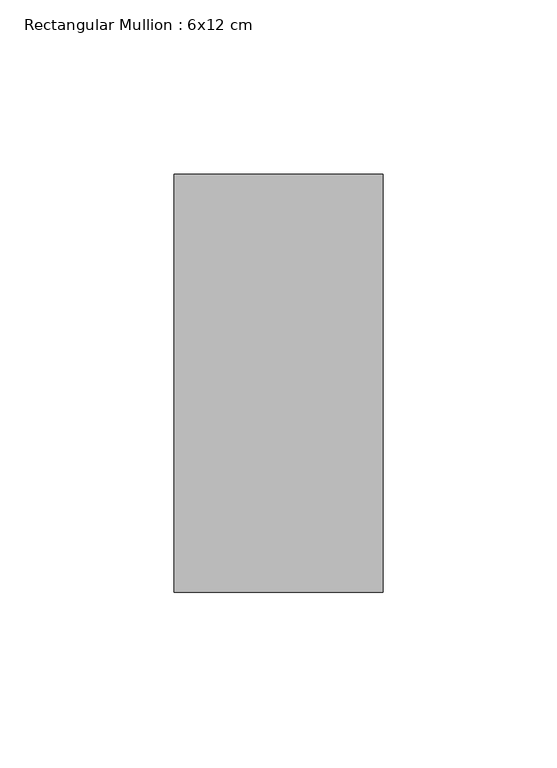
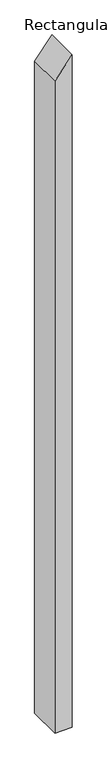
"""IFC4 building model written with IfcOpenShell, lengths in millimetres: member geometry, Rectangular Mullion : 6x12 cm."""

import ifcopenshell
import ifcopenshell.guid

model = None  # the IFC model being written
_history = None  # IfcOwnerHistory: only IFC2X3 demands one
_inside = {}  # id of a spatial element -> (the spatial element, [elements in it])
_under = {}  # id of a project, library or spatial element -> (it, [spatial elements below it])
_declared = {}  # id of a project -> (the project, [libraries it declares])
_typed = {}  # id of a type object -> (the type object, [elements of that type])
_made_of = {}  # id of a material, layer set ... -> (it, [elements and type objects made of it])


def new_model(schema):
    """Start an empty IFC model of exactly this schema.

    Asked for "IFC4X3", IfcOpenShell would pick the latest addendum, in which some entities
    have other attributes; the version numbers below select the first issue.
    IFC2X3 requires an IfcOwnerHistory on every rooted entity: one is made here for all.
    """
    global model, _history
    if schema == "IFC4X3":
        model = ifcopenshell.file(schema_version=(4, 3, 0, 0))
    else:
        model = ifcopenshell.file(schema=schema)
    _inside.clear()
    _under.clear()
    _declared.clear()
    _typed.clear()
    _made_of.clear()
    _history = None
    if model.schema == "IFC2X3":
        org = make("IfcOrganization", Name="unknown")
        user = make(
            "IfcPersonAndOrganization",
            ThePerson=make("IfcPerson", FamilyName="unknown"),
            TheOrganization=org,
        )
        app = make(
            "IfcApplication",
            ApplicationDeveloper=org,
            Version="unknown",
            ApplicationFullName="unknown",
            ApplicationIdentifier="unknown",
        )
        _history = make(
            "IfcOwnerHistory",
            OwningUser=user,
            OwningApplication=app,
            ChangeAction="ADDED",
            CreationDate=0,
        )
    return model


def make(cls, **values):
    """One entity of the class cls with the attributes given. An attribute that is None is left unset."""
    return model.create_entity(
        cls, **{name: value for name, value in values.items() if value is not None}
    )


def rooted(cls, **values):
    """An entity with a GlobalId (a new one), such as an element, a storey or a relation."""
    return make(cls, GlobalId=ifcopenshell.guid.new(), OwnerHistory=_history, **values)


def si_unit(unit_type, name, prefix=None):
    """IfcSIUnit, for example si_unit("LENGTHUNIT", "METRE", prefix="MILLI")."""
    return make("IfcSIUnit", UnitType=unit_type, Prefix=prefix, Name=name)


def assignment(units):
    """IfcUnitAssignment: the units of a project."""
    return None if units is None else make("IfcUnitAssignment", Units=units)


def point(xyz):
    """IfcCartesianPoint."""
    return None if xyz is None else make("IfcCartesianPoint", Coordinates=xyz)


def direction(xyz):
    """IfcDirection."""
    return None if xyz is None else make("IfcDirection", DirectionRatios=xyz)


def frame(location, z_axis=None, x_axis=None):
    """IfcAxis2Placement3D, a coordinate frame: its origin and axes. An axis left out is left unset."""
    return make(
        "IfcAxis2Placement3D",
        Location=point(location),
        Axis=direction(z_axis),
        RefDirection=direction(x_axis),
    )


def origin():
    """The frame at (0, 0, 0) with its axes left unset."""
    return frame((0.0, 0.0, 0.0))


def place(relative_to, where):
    """IfcLocalPlacement: puts the frame where relative to a parent placement (None: the world)."""
    return make(
        "IfcLocalPlacement", PlacementRelTo=relative_to, RelativePlacement=where
    )


def context(
    kind, dimensions, precision=None, world=None, true_north=None, identifier=None
):
    """IfcGeometricRepresentationContext, for example the 3D "Model" context."""
    return make(
        "IfcGeometricRepresentationContext",
        ContextIdentifier=identifier,
        ContextType=kind,
        CoordinateSpaceDimension=dimensions,
        Precision=precision,
        WorldCoordinateSystem=world,
        TrueNorth=true_north,
    )


def project(units=None, contexts=None):
    """IfcProject with its units and contexts."""
    return rooted(
        "IfcProject",
        Name="project",
        RepresentationContexts=contexts,
        UnitsInContext=assignment(units),
    )


def spatial(cls, under=None, at=None, **own):
    """A site, building, storey or space (cls), placed at a placement, below another one or the project."""
    s = rooted(cls, ObjectPlacement=at, **own)
    if under is not None:
        _under.setdefault(under.id(), (under, []))[1].append(s)
    return s


def polyline(points):
    """IfcPolyline through the points."""
    return make("IfcPolyline", Points=[point(p) for p in points])


def outline(outer, holes=None, kind="AREA"):
    """IfcArbitraryClosedProfileDef: a profile drawn as a closed curve; with holes, ...WithVoids."""
    if holes is None:
        return make("IfcArbitraryClosedProfileDef", ProfileType=kind, OuterCurve=outer)
    return make(
        "IfcArbitraryProfileDefWithVoids",
        ProfileType=kind,
        OuterCurve=outer,
        InnerCurves=holes,
    )


def extrude(swept, where, along, depth):
    """IfcExtrudedAreaSolid: the profile swept, set in the frame where, extruded along a direction by depth."""
    return make(
        "IfcExtrudedAreaSolid",
        SweptArea=swept,
        Position=where,
        ExtrudedDirection=direction(along),
        Depth=depth,
    )


def shape(context_of_items, identifier, shape_type, items):
    """IfcShapeRepresentation: the items that make up one representation, for example the "Body"."""
    return make(
        "IfcShapeRepresentation",
        ContextOfItems=context_of_items,
        RepresentationIdentifier=identifier,
        RepresentationType=shape_type,
        Items=items,
    )


def source(mapping_origin, context_of_items, identifier, shape_type, items):
    """IfcRepresentationMap: a shape defined once, which mapped items show again and again."""
    return make(
        "IfcRepresentationMap",
        MappingOrigin=mapping_origin,
        MappedRepresentation=shape(context_of_items, identifier, shape_type, items),
    )


def transform(
    local_origin,
    x_axis=None,
    y_axis=None,
    z_axis=None,
    scale=None,
    scale2=None,
    scale3=None,
    uniform=True,
):
    """IfcCartesianTransformationOperator3D, or its non-uniform kind. x_axis, y_axis, z_axis: its Axis1, 2, 3."""
    if uniform:
        return make(
            "IfcCartesianTransformationOperator3D",
            Axis1=direction(x_axis),
            Axis2=direction(y_axis),
            LocalOrigin=point(local_origin),
            Scale=scale,
            Axis3=direction(z_axis),
        )
    return make(
        "IfcCartesianTransformationOperator3DnonUniform",
        Axis1=direction(x_axis),
        Axis2=direction(y_axis),
        LocalOrigin=point(local_origin),
        Scale=scale,
        Axis3=direction(z_axis),
        Scale2=scale2,
        Scale3=scale3,
    )


def mapped(mapping_source, mapping_target):
    """IfcMappedItem: shows the shape of a source again, moved by a transform."""
    return make(
        "IfcMappedItem", MappingSource=mapping_source, MappingTarget=mapping_target
    )


def made_of(thing, what):
    """Note that an element or type object is made of a material, layer set ...; save() writes the relation."""
    if what is not None:
        _made_of.setdefault(what.id(), (what, []))[1].append(thing)
    return thing


def element(
    cls,
    number,
    at=None,
    inside=None,
    cuts=None,
    type_object=None,
    material=None,
    context=None,
    identifier="Body",
    shape_type=None,
    held_by="IfcProductDefinitionShape",
    body=None,
    shapes=None,
    **own,
):
    """One element of the class cls, such as IfcWall. Its Tag is "e" and its number.

    at: its placement. inside: the storey or other place that contains it. cuts: it is an
    opening in that element (IfcRelVoidsElement). A single representation is given by context,
    identifier, shape_type and body (its items); several are given by shapes. held_by: the class
    of the entity that holds the representations. save() writes the other relations.
    """
    e = rooted(cls, Tag="e%d" % number, ObjectPlacement=at, **own)
    if body is not None:
        shapes = [shape(context, identifier, shape_type, body)]
    if shapes is not None:
        e.Representation = make(held_by, Representations=shapes)
    if inside is not None:
        _inside.setdefault(inside.id(), (inside, []))[1].append(e)
    if cuts is not None:
        rooted(
            "IfcRelVoidsElement", RelatingBuildingElement=cuts, RelatedOpeningElement=e
        )
    if type_object is not None:
        _typed.setdefault(type_object.id(), (type_object, []))[1].append(e)
    return made_of(e, material)


def aggregate(whole, parts):
    """IfcRelAggregates: a whole, such as a stair, and the parts it consists of."""
    return rooted("IfcRelAggregates", RelatingObject=whole, RelatedObjects=parts)


def save(model, path):
    """Write the relations noted so far, then the file.

    IfcRelAggregates (storeys below a building ...), IfcRelContainedInSpatialStructure (elements
    in a storey), IfcRelDefinesByType, IfcRelAssociatesMaterial and IfcRelDeclares: one each for
    every whole, place, type object, material and project.
    """
    for whole, parts in _under.values():
        aggregate(whole, parts)
    for where, things in _inside.values():
        rooted(
            "IfcRelContainedInSpatialStructure",
            RelatedElements=things,
            RelatingStructure=where,
        )
    for kind, things in _typed.values():
        rooted("IfcRelDefinesByType", RelatedObjects=things, RelatingType=kind)
    for what, things in _made_of.values():
        rooted("IfcRelAssociatesMaterial", RelatedObjects=things, RelatingMaterial=what)
    for by, libraries in _declared.values():
        rooted("IfcRelDeclares", RelatingContext=by, RelatedDefinitions=libraries)
    model.write(path)


def rectangular_mullion_6x12_cm_26c39972(model_context):
    return source(origin(), model_context, "Body", "SweptSolid", [
        extrude(outline(polyline([(-58.5076842, 30.0), (-133.3680498, -30.0), (-2508.6654186, -30.0), (-2508.6654186, 30.0), (-58.5076842, 30.0)])), frame((0.0, 85.0, 0.0), z_axis=(0.0, 1.0, 0.0), x_axis=(0.0, 0.0, 1.0)), (0.0, 0.0, 1.0), 120.0),
    ])


if __name__ == "__main__":
    model = new_model("IFC4")
    model_context = context("Model", 3, world=origin())
    ifc_project = project(units=[si_unit("LENGTHUNIT", "METRE", prefix="MILLI")], contexts=[model_context])
    site = spatial("IfcSite", under=ifc_project)
    building = spatial("IfcBuilding", under=site)
    placement = place(None, origin())
    rectangular_mullion_6x12_cm_shape = rectangular_mullion_6x12_cm_26c39972(model_context)
    element("IfcMember", 1, ObjectType="Rectangular Mullion : 6x12 cm", at=placement, inside=building, context=model_context, shape_type="MappedRepresentation", body=[
        mapped(rectangular_mullion_6x12_cm_shape, transform((0.0, 0.0, 0.0), x_axis=(1.0, 0.0, 0.0), y_axis=(0.0, 1.0, 0.0), z_axis=(0.0, 0.0, 1.0))),
    ])
    save(model, "model.ifc")
